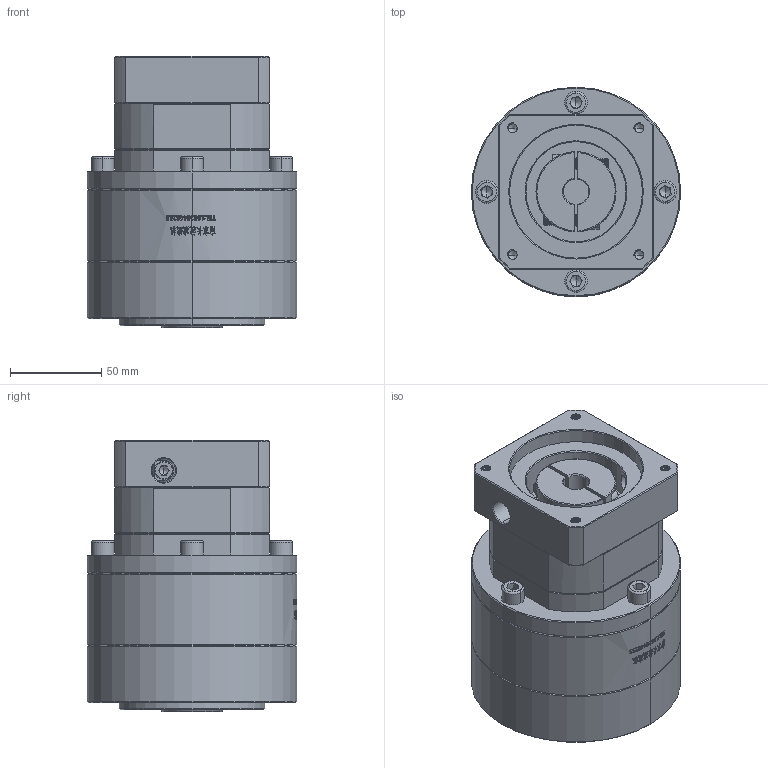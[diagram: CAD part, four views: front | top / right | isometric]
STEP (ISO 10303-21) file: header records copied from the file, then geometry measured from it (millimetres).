
FILE_DESCRIPTION (( 'STEP AP214' ), '1' );
FILE_NAME ('ZE120A-K25-L2-14-73-69.5X69.5-M6.step', '2023-03-13T06:53:21', ( '' ), ( '' ), 'SwSTEP 2.0', 'SolidWorks 2016', '' );
FILE_SCHEMA (( 'AUTOMOTIVE_DESIGN' ));
Length unit declared in the file: millimetre
Products named in the file (1): ZE120A-K25-L2-14-73-69.5X69.5-M6
Bounding box: 115 x 115 x 149 mm (x, y, z)
Volume: 1171954 mm3; surface area: 119666.8 mm2
Topology: 5 solids, 6 shells, 1966 faces, 5186 edges, 3311 vertices
Faces by surface type: plane 859, cylinder 467, bspline 324, cone 301, torus 15
Entity records: 111175 total; most frequent: CARTESIAN_POINT 45345, ORIENTED_EDGE 10300, DIRECTION 7734, EDGE_CURVE 5150, VERTEX_POINT 3311, VECTOR 2750, LINE 2750, AXIS2_PLACEMENT_3D 2492
